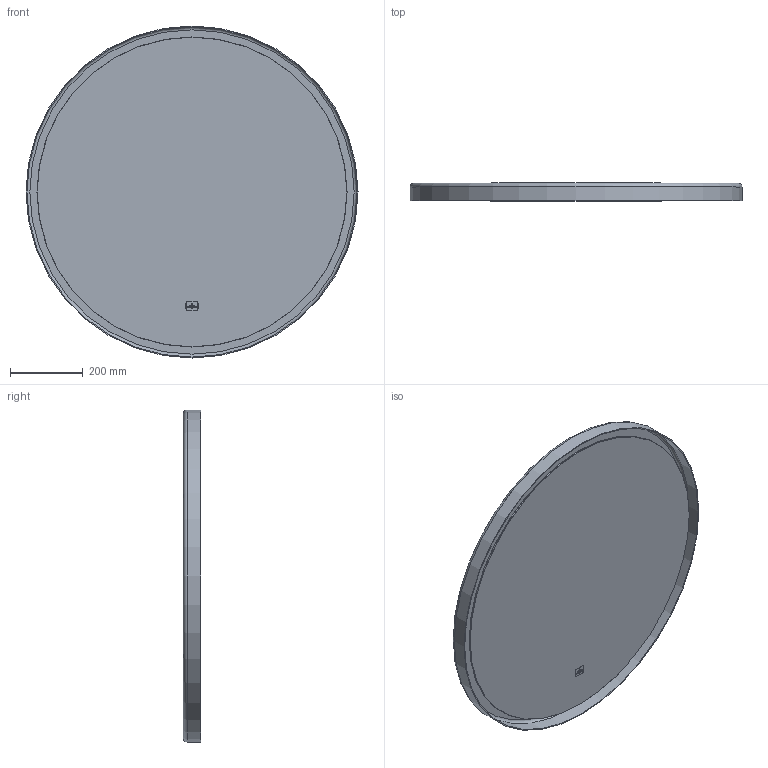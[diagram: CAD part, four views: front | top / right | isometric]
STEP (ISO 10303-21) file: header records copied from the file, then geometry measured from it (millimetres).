
FILE_DESCRIPTION(/* description */ (''),/* implementation_level */ '2;1');
FILE_NAME(/* name */ 'K:\ACAD\PERSPECT\Freisteller\V&B\Subway 3.0\A46491YY.stp',/* time_stamp */ '2020-07-28T15:29:27+02:00',/* author */ ('StegeR'),/* organization */ (''),/* preprocessor_version */ 'ST-DEVELOPER v16.1',/* originating_system */ 'Autodesk Inventor 2016',/* authorisation */ '');
FILE_SCHEMA (('AUTOMOTIVE_DESIGN { 1 0 10303 214 3 1 1 }'));
Length unit declared in the file: millimetre
Products named in the file (1): A46491YY
Bounding box: 910 x 48 x 910 mm (x, y, z)
Volume: 4471555.6 mm3; surface area: 3442848 mm2
Topology: 31 solids, 31 shells, 772 faces, 1932 edges, 1263 vertices
Faces by surface type: plane 540, cylinder 189, torus 20, cone 15, bspline 8
Full cylindrical faces by diameter (mm): 0.488 x2, 4 x6, 7 x6, 400 x1, 767 x1, 769 x1, 776 x2, 776.5 x4, 781 x1, 783 x1, 785 x1, 850 x1, 905 x1, 910 x1
Entity records: 22779 total; most frequent: CARTESIAN_POINT 4048, DIRECTION 3819, ORIENTED_EDGE 3744, EDGE_CURVE 1868, LINE 1431, VECTOR 1431, VERTEX_POINT 1263, AXIS2_PLACEMENT_3D 1194
